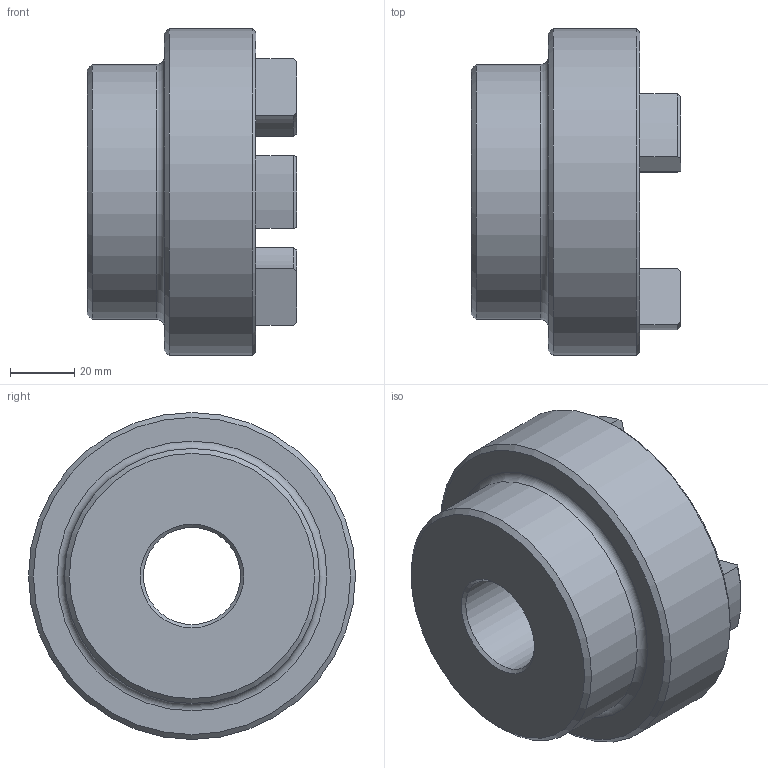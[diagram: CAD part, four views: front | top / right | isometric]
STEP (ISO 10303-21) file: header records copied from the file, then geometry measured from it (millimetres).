
FILE_DESCRIPTION (( 'STEP AP203' ), '1' );
FILE_NAME ('RC4.step', '2024-07-24T17:38:32', ( 'Adlan' ), ( '' ), 'SwSTEP 2.0', 'SolidWorks 2013', '' );
FILE_SCHEMA (( 'CONFIG_CONTROL_DESIGN' ));
Length unit declared in the file: inch
Products named in the file (1): RC4
Bounding box: 65.02 x 101.6 x 101.6 mm (x, y, z)
Volume: 253664.4 mm3; surface area: 40402.4 mm2
Topology: 1 solids, 1 shells, 60 faces, 146 edges, 90 vertices
Faces by surface type: cylinder 24, plane 13, torus 13, cone 10
Full cylindrical faces by diameter (mm): 30.175 x1, 79.248 x1, 101.6 x1
Entity records: 1841 total; most frequent: CARTESIAN_POINT 341, DIRECTION 324, ORIENTED_EDGE 274, EDGE_CURVE 137, AXIS2_PLACEMENT_3D 132, VERTEX_POINT 89, EDGE_LOOP 72, CIRCLE 71
